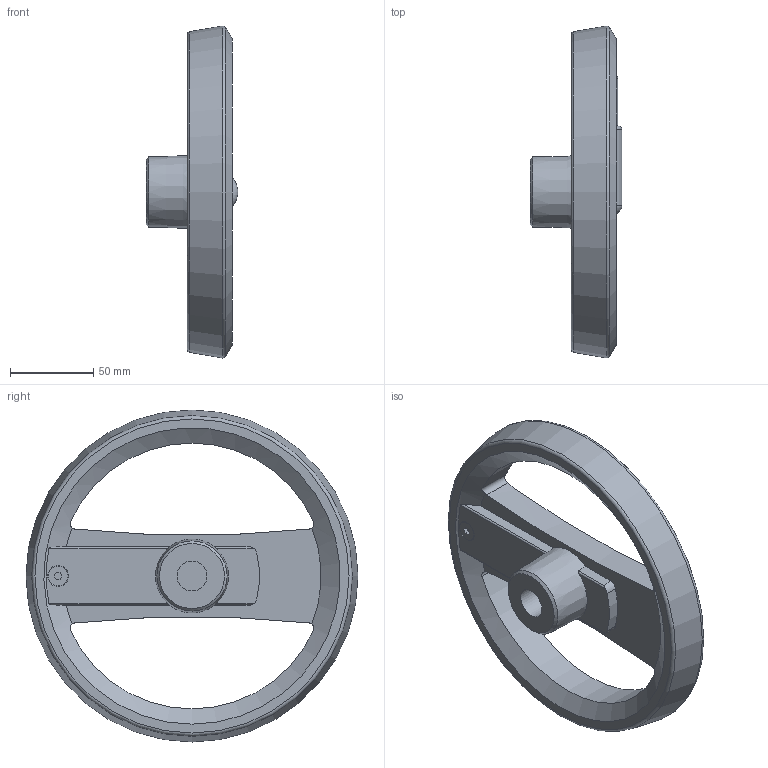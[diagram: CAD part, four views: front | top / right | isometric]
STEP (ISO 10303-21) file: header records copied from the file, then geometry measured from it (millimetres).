
FILE_DESCRIPTION( ( 'STEP AP203' ), '1' );
FILE_NAME( 'C:/Temp/Ganter_Step_05_03_2020/data/1_3/gn_924_3/gn_924_3_b/Handwheel with retractable handle GN 924.3-200-B18-R-SW (unactivated).stp', '2020-03-05T10:40:58', ( 'License CC BY-ND 4.0' ), ( 'CADENAS' ), ' ', 'PARTsolutions', ' ' );
FILE_SCHEMA( ( 'CONFIG_CONTROL_DESIGN' ) );
Length unit declared in the file: millimetre
Products named in the file (3): Handwheel with retractable handle GN 924.3-200-B18-R-SW (unactivated); _Umleggriff-Handrad GN 924.3-200-B18-R-SW-1; _Umleggriff-Handrad GN 924.3-200-B18-R-SW-2
Assembly tree (2 placements, depth 2):
  Handwheel with retractable handle GN 924.3-200-B18-R-SW (unactivated)
    _Umleggriff-Handrad GN 924.3-200-B18-R-SW-1
    _Umleggriff-Handrad GN 924.3-200-B18-R-SW-2
Bounding box: 55.2 x 199.58 x 199.58 mm (x, y, z)
Volume: 417171.2 mm3; surface area: 85334.6 mm2
Topology: 2 solids, 2 shells, 101 faces, 260 edges, 166 vertices
Faces by surface type: plane 43, cylinder 39, cone 10, torus 7, sphere 2
Full cylindrical faces by diameter (mm): 3.96 x2, 4 x2, 5 x1, 10 x1, 12 x1, 18 x1, 20 x1, 25 x2, 26.6 x1
Entity records: 3329 total; most frequent: CARTESIAN_POINT 909, DIRECTION 488, ORIENTED_EDGE 442, EDGE_CURVE 221, AXIS2_PLACEMENT_3D 200, VERTEX_POINT 160, EDGE_LOOP 142, FACE_OUTER_BOUND 120
